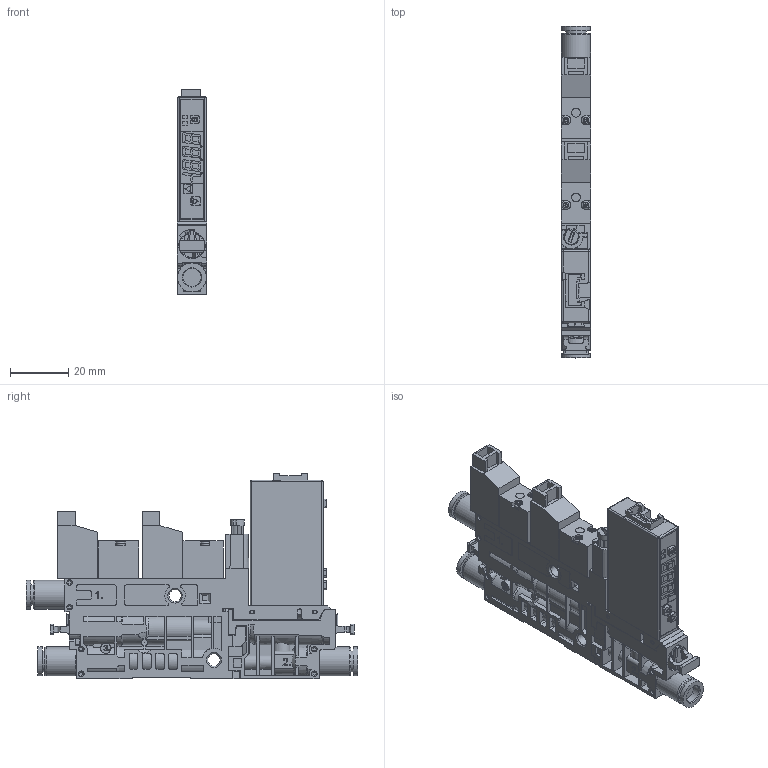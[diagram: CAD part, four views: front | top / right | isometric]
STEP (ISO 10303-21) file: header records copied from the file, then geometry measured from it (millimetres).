
FILE_DESCRIPTION(/* description */ ('Unknown'),/* implementation_level */ '2;1');
FILE_NAME(/* name */ 'C10E_A01_B02_C02_D02',/* time_stamp */ '2020-02-24T08:14:43+01:00',/* author */ ('Unknown'),/* organization */ ('Unknown'),/* preprocessor_version */ 'ST-DEVELOPER v16.7',/* originating_system */ 'DEX',/* authorisation */ $);
FILE_SCHEMA (('AUTOMOTIVE_DESIGN {1 0 10303 214 3 1 1}'));
Products named in the file (5): C10E_A01_B02_C02_D02; EC10 6mm; A01_1ch_vac_switch
Assembly tree (6 placements, depth 3):
  C10E_A01_B02_C02_D02
    EC10 6mm  x3
      EC10 6mm
    A01_1ch_vac_switch
      A01_1ch_vac_switch
Bounding box: 10 x 113.6 x 70.51 mm (x, y, z)
Volume: 42869.1 mm3; surface area: 24426.9 mm2
Topology: 4 solids, 9 shells, 1843 faces, 5173 edges, 3511 vertices
Faces by surface type: plane 1290, cylinder 400, cone 122, bspline 18, torus 7, sphere 6
Full cylindrical faces by diameter (mm): 0.7 x3, 1.2 x8, 1.6 x4, 1.75 x4, 2 x2, 2.1 x2, 3 x6, 3.595 x1, 4 x1, 4.2 x2, 6.2 x3, 7 x3, 9.95 x6
Entity records: 72502 total; most frequent: CARTESIAN_POINT 11982, ORIENTED_EDGE 10000, DIRECTION 9496, EDGE_CURVE 5000, VERTEX_POINT 3432, LINE 3394, VECTOR 3394, AXIS2_PLACEMENT_3D 3051
